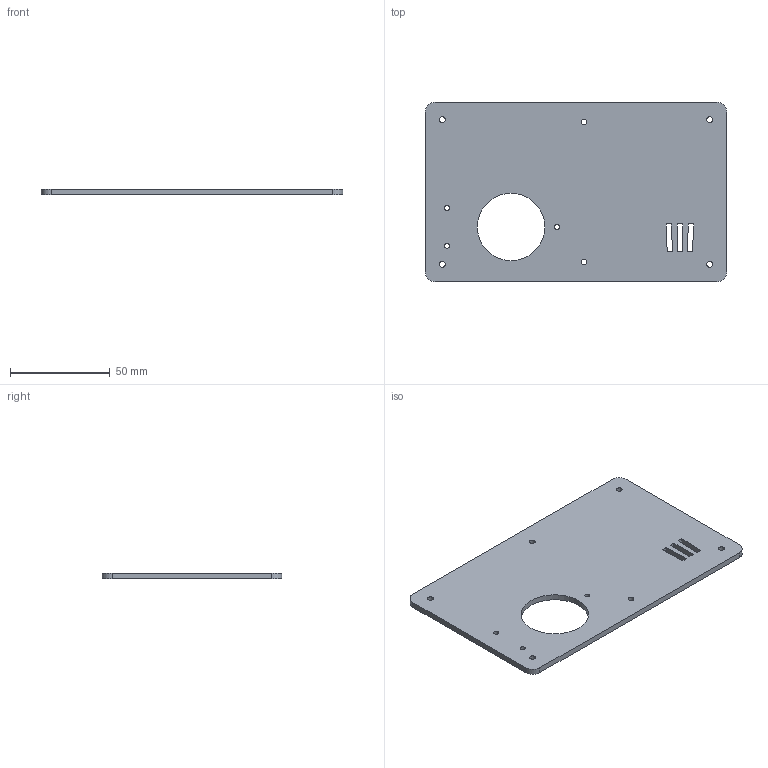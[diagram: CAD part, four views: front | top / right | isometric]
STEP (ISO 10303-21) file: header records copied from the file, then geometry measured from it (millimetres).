
FILE_DESCRIPTION(('Open CASCADE Model'),'2;1');
FILE_NAME('Open CASCADE Shape Model','2026-08-29T07:31:46',('Author'),( 'Open CASCADE'),'Open CASCADE STEP processor 7.9','build123d', 'Unknown');
FILE_SCHEMA(('AUTOMOTIVE_DESIGN { 1 0 10303 214 1 1 1 1 }'));
Length unit declared in the file: millimetre
Products named in the file (2): =>[0:1:1:2]; COMPOUND
Assembly tree (1 placements, depth 2):
  =>[0:1:1:2]
    COMPOUND
Bounding box: 151 x 90 x 3 mm (x, y, z)
Volume: 37456 mm3; surface area: 27279.5 mm2
Topology: 1 solids, 1 shells, 44 faces, 126 edges, 84 vertices
Faces by surface type: cylinder 26, plane 18
Full cylindrical faces by diameter (mm): 2.4 x3, 2.9 x6, 33.8 x1
Entity records: 3276 total; most frequent: CARTESIAN_POINT 700, DIRECTION 490, LINE 274, VECTOR 274, ORIENTED_EDGE 252, PCURVE 252, DEFINITIONAL_REPRESENTATION 252, EDGE_CURVE 126
